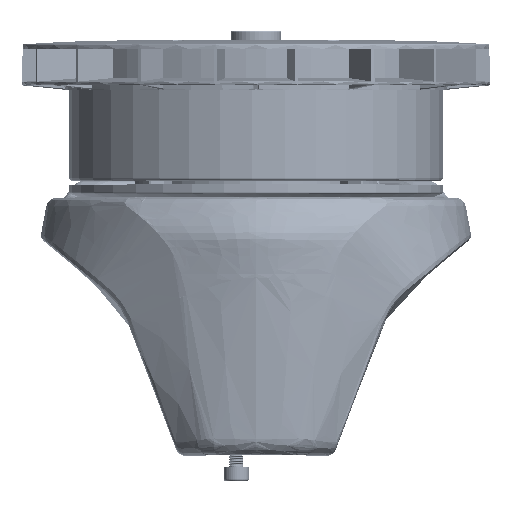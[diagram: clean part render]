
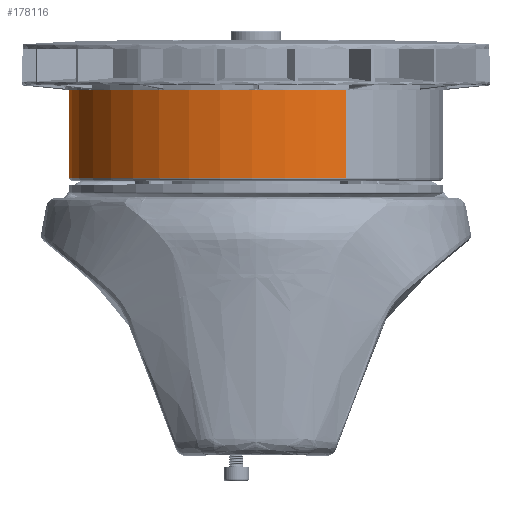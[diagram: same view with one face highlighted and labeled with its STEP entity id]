
A CAD part, top view. The second image highlights one B-rep face of the part: STEP entity #178116.
In plain terms, the highlighted cylindrical face has radius 52 mm (diameter 104 mm), a partial arc.
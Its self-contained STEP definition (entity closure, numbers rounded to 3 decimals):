
#28386 = EDGE_CURVE ( 'NONE', #719263, #335007, #773308, .T. ) ;
#31917 = ORIENTED_EDGE ( 'NONE', *, *, #300020, .T. ) ;
#45075 = VERTEX_POINT ( 'NONE', #469316 ) ;
#46039 = EDGE_CURVE ( 'NONE', #45075, #335007, #496762, .T. ) ;
#84461 = DIRECTION ( 'NONE',  ( 0., 1., 0. ) ) ;
#106605 = CARTESIAN_POINT ( 'NONE',  ( -25.093, 68.9, -45.545 ) ) ;
#111896 = DIRECTION ( 'NONE',  ( 1., 0., 0. ) ) ;
#155642 = DIRECTION ( 'NONE',  ( 0., 1., 0. ) ) ;
#160484 = CARTESIAN_POINT ( 'NONE',  ( -25.093, 43.5, -45.545 ) ) ;
#178116 = ADVANCED_FACE ( 'NONE', ( #826628 ), #205086, .T. ) ;
#205086 = CYLINDRICAL_SURFACE ( 'NONE', #438455, 52. ) ;
#209151 = AXIS2_PLACEMENT_3D ( 'NONE', #285605, #84461, #621472 ) ;
#250426 = DIRECTION ( 'NONE',  ( 0., -1., 0. ) ) ;
#250438 = EDGE_LOOP ( 'NONE', ( #31917, #866632, #863449, #536320 ) ) ;
#284965 = DIRECTION ( 'NONE',  ( 0., 1., 0. ) ) ;
#285605 = CARTESIAN_POINT ( 'NONE',  ( 0., 43.4, 0. ) ) ;
#300020 = EDGE_CURVE ( 'NONE', #719263, #450419, #451927, .T. ) ;
#335007 = VERTEX_POINT ( 'NONE', #106605 ) ;
#396038 = CARTESIAN_POINT ( 'NONE',  ( -25.093, 43.4, -45.545 ) ) ;
#433418 = DIRECTION ( 'NONE',  ( 0., 1., 0. ) ) ;
#438455 = AXIS2_PLACEMENT_3D ( 'NONE', #576132, #155642, #696985 ) ;
#450419 = VERTEX_POINT ( 'NONE', #592642 ) ;
#451927 = CIRCLE ( 'NONE', #209151, 52. ) ;
#469316 = CARTESIAN_POINT ( 'NONE',  ( 25.093, 68.9, 45.545 ) ) ;
#496762 = CIRCLE ( 'NONE', #739175, 52. ) ;
#499834 = CARTESIAN_POINT ( 'NONE',  ( 25.093, 43.5, 45.545 ) ) ;
#536320 = ORIENTED_EDGE ( 'NONE', *, *, #28386, .F. ) ;
#537591 = VECTOR ( 'NONE', #284965, 1000. ) ;
#550496 = EDGE_CURVE ( 'NONE', #450419, #45075, #763613, .T. ) ;
#576132 = CARTESIAN_POINT ( 'NONE',  ( 0., 43.5, 0. ) ) ;
#592642 = CARTESIAN_POINT ( 'NONE',  ( 25.093, 43.4, 45.545 ) ) ;
#621472 = DIRECTION ( 'NONE',  ( 0.483, 0., 0.876 ) ) ;
#696985 = DIRECTION ( 'NONE',  ( -0.483, 0., -0.876 ) ) ;
#719263 = VERTEX_POINT ( 'NONE', #396038 ) ;
#720244 = CARTESIAN_POINT ( 'NONE',  ( 0., 68.9, 0. ) ) ;
#739175 = AXIS2_PLACEMENT_3D ( 'NONE', #720244, #250426, #111896 ) ;
#763613 = LINE ( 'NONE', #499834, #537591 ) ;
#773308 = LINE ( 'NONE', #160484, #884824 ) ;
#826628 = FACE_OUTER_BOUND ( 'NONE', #250438, .T. ) ;
#863449 = ORIENTED_EDGE ( 'NONE', *, *, #46039, .T. ) ;
#866632 = ORIENTED_EDGE ( 'NONE', *, *, #550496, .T. ) ;
#884824 = VECTOR ( 'NONE', #433418, 1000. ) ;
